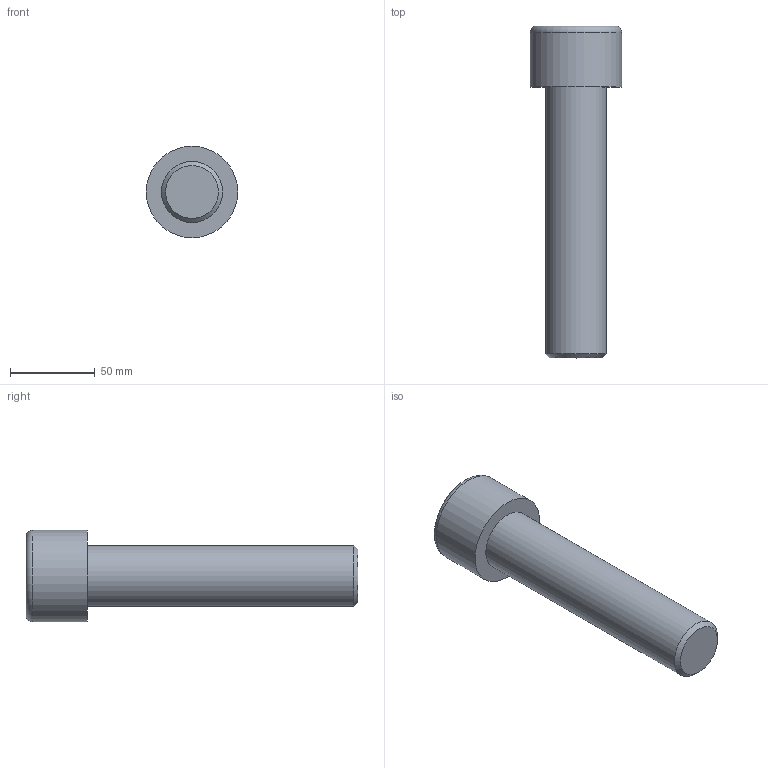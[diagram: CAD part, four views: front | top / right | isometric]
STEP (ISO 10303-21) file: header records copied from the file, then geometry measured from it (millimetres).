
FILE_DESCRIPTION(/* description */ (''),/* implementation_level */ '2;1');
FILE_NAME(/* name */ 'C:\Users\D\Documents\Inventor\各種小物\JIS\JIS B 1176 六角穴付きボルト\M36x160.stp',/* time_stamp */ '2022-05-09T19:04:00+09:00',/* author */ ('D'),/* organization */ (''),/* preprocessor_version */ 'ST-DEVELOPER v18',/* originating_system */ 'Autodesk Inventor 2020',/* authorisation */ '');
FILE_SCHEMA (('AUTOMOTIVE_DESIGN { 1 0 10303 214 3 1 1 }'));
Length unit declared in the file: millimetre
Products named in the file (1): M1.6x2.5
Bounding box: 54 x 196 x 54 mm (x, y, z)
Volume: 230303.6 mm3; surface area: 30294.1 mm2
Topology: 1 solids, 1 shells, 14 faces, 33 edges, 22 vertices
Faces by surface type: plane 9, cone 2, cylinder 2, torus 1
Full cylindrical faces by diameter (mm): 36 x1, 54 x1
Entity records: 435 total; most frequent: CARTESIAN_POINT 83, ORIENTED_EDGE 64, DIRECTION 64, EDGE_CURVE 32, AXIS2_PLACEMENT_3D 24, VERTEX_POINT 22, EDGE_LOOP 16, LINE 16
